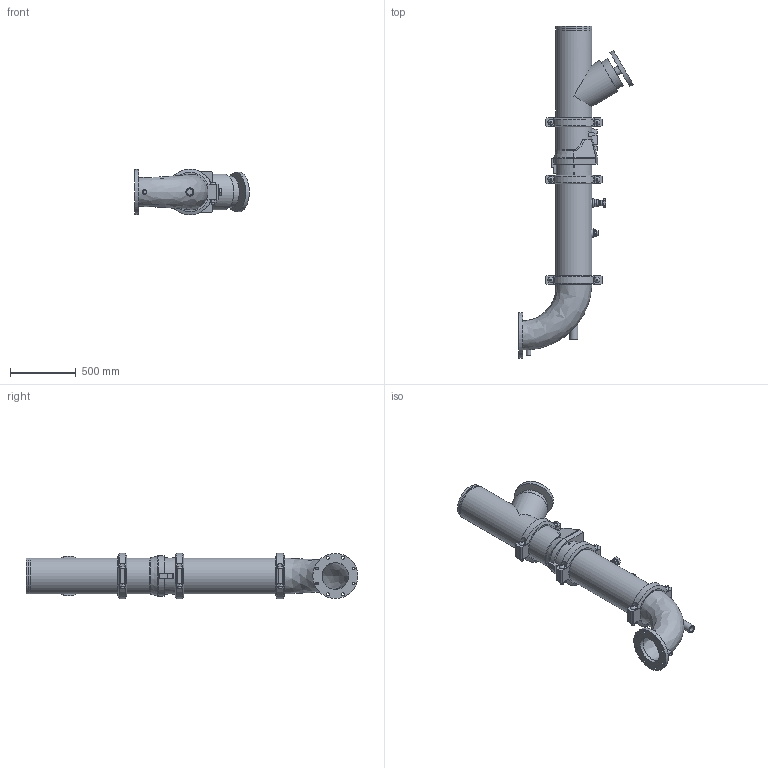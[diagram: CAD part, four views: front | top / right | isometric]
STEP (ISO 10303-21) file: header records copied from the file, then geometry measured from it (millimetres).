
FILE_DESCRIPTION(/* description */ ('VIC DVI PUMP DROP HORZ S/383 (OGSxFLG) (S/924-1.25)','CAx-IF Rec.Pracs.---Representation and Presentation of Product Manufacturing Information (PMI)---4.0---2014-10-13'),/* implementation_level */ '2;1');
FILE_NAME(/* name */ 'C:\Users\kkamble\AppData\Roaming\Autodesk\ApplicationPlugins\Victaulic.Temp\A821\CL 150_Series 383 (OGSxFLG)_924 (1.25)_10.0x08.0 (250x200).stp',/* time_stamp */ '2022-03-16T18:47:42+05:00',/* author */ ('kkamble'),/* organization */ ('Victaulic'),/* preprocessor_version */ 'ST-DEVELOPER v17.2',/* originating_system */ 'Autodesk Inventor 2019',/* authorisation */ '');
FILE_SCHEMA (('AP242_MANAGED_MODEL_BASED_3D_ENGINEERING_MIM_LF { 1 0 10303 442 1 1 4 }'));
Length unit declared in the file: inch
Products named in the file (8): 383_924 (1.25)-10.0x08.0; Pipe-10.0; 789-10.0; 779-10.0; 924-10.0x01.25; 923-10.0x0.75; R100F-10.0x08.0; 077-10.0
Assembly tree (9 placements, depth 2):
  383_924 (1.25)-10.0x08.0
    Pipe-10.0
    789-10.0
    779-10.0
    077-10.0  x3
    924-10.0x01.25
    923-10.0x0.75
    R100F-10.0x08.0
Bounding box: 869.95 x 2519.36 x 344.9 mm (x, y, z)
Volume: 48050624 mm3; surface area: 5848176.2 mm2
Topology: 9 solids, 16 shells, 447 faces, 1102 edges, 755 vertices
Faces by surface type: plane 266, cylinder 146, cone 17, bspline 12, torus 6
Full cylindrical faces by diameter (mm): 13.716 x4, 21.336 x2, 22.352 x8, 25.4 x12, 26.67 x3, 27.432 x6, 34.29 x1, 38.608 x1, 42.164 x1, 45.974 x4, 48.26 x1, 48.514 x1, 55.626 x2, 60.96 x2, 76.2 x1, 202.717 x1, 237.49 x1, 254.508 x4, 264.16 x3, 268.275 x7, 273.05 x18, 299.974 x1, 342.9 x1
Entity records: 12165 total; most frequent: CARTESIAN_POINT 3364, DIRECTION 1790, ORIENTED_EDGE 1624, EDGE_CURVE 812, AXIS2_PLACEMENT_3D 688, VERTEX_POINT 559, LINE 414, VECTOR 414
